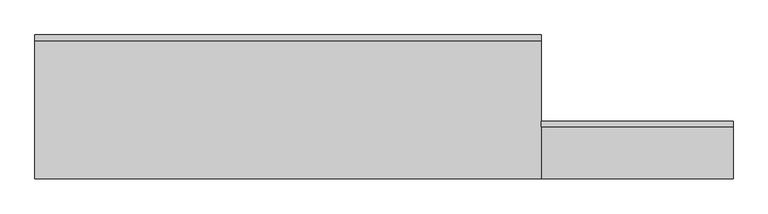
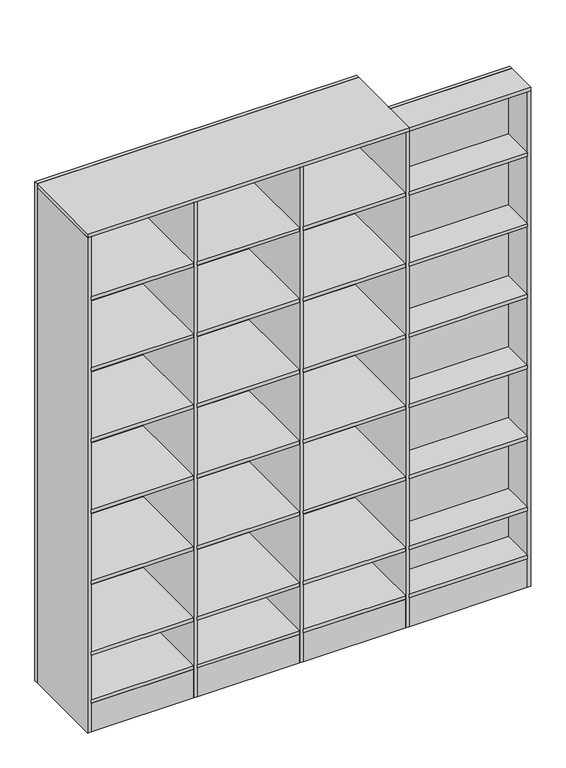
"""IFC4 building model written with IfcOpenShell, lengths in millimetres: furniture geometry, C20 Estanteria grande : C20.2 Estanteria grande 45."""

from ifc_helpers import new_model, si_unit, frame, origin, place, context, project, spatial, polyline, outline, extrude, source, transform, mapped, element, save


def furniture_8ed5fab2(model_context):
    return source(origin(), model_context, "Body", "SweptSolid", [
        extrude(outline(polyline([(537.2003264, 0.0), (537.2003264, -18.0), (-1047.7996736, -18.0), (-1047.7996736, 0.0), (537.2003264, 0.0)])), frame((0.0, 0.0, 20.0), z_axis=(0.0, 0.0, 1.0), x_axis=(1.0, 0.0, 0.0)), (0.0, 0.0, 1.0), 2600.0),
        extrude(outline(polyline([(1137.2003264, -270.0), (1137.2003264, -288.0), (537.2003264, -288.0), (537.2003264, -270.0), (1137.2003264, -270.0)])), frame((0.0, 0.0, 20.0), z_axis=(0.0, 0.0, 1.0), x_axis=(1.0, 0.0, 0.0)), (0.0, 0.0, 1.0), 2600.0),
        extrude(outline(polyline([(519.2003264, -450.0), (14.8669931, -450.0), (14.8669931, -18.0), (519.2003264, -18.0), (519.2003264, -450.0)])), frame((0.0, 0.0, 789.6), z_axis=(0.0, 0.0, 1.0), x_axis=(1.0, 0.0, 0.0)), (0.0, 0.0, 1.0), 18.0),
        extrude(outline(polyline([(519.2003264, -450.0), (14.8669931, -450.0), (14.8669931, -18.0), (519.2003264, -18.0), (519.2003264, -450.0)])), frame((0.0, 0.0, 1159.2), z_axis=(0.0, 0.0, 1.0), x_axis=(1.0, 0.0, 0.0)), (0.0, 0.0, 1.0), 18.0),
        extrude(outline(polyline([(519.2003264, -450.0), (14.8669931, -450.0), (14.8669931, -18.0), (519.2003264, -18.0), (519.2003264, -450.0)])), frame((0.0, 0.0, 1528.8), z_axis=(0.0, 0.0, 1.0), x_axis=(1.0, 0.0, 0.0)), (0.0, 0.0, 1.0), 18.0),
        extrude(outline(polyline([(-3.1330069, -450.0), (-507.4663402, -450.0), (-507.4663402, -18.0), (-3.1330069, -18.0), (-3.1330069, -450.0)])), frame((0.0, 0.0, 789.6), z_axis=(0.0, 0.0, 1.0), x_axis=(1.0, 0.0, 0.0)), (0.0, 0.0, 1.0), 18.0),
        extrude(outline(polyline([(-3.1330069, -450.0), (-507.4663402, -450.0), (-507.4663402, -18.0), (-3.1330069, -18.0), (-3.1330069, -450.0)])), frame((0.0, 0.0, 1159.2), z_axis=(0.0, 0.0, 1.0), x_axis=(1.0, 0.0, 0.0)), (0.0, 0.0, 1.0), 18.0),
        extrude(outline(polyline([(-3.1330069, -450.0), (-507.4663402, -450.0), (-507.4663402, -18.0), (-3.1330069, -18.0), (-3.1330069, -450.0)])), frame((0.0, 0.0, 1528.8), z_axis=(0.0, 0.0, 1.0), x_axis=(1.0, 0.0, 0.0)), (0.0, 0.0, 1.0), 18.0),
        extrude(outline(polyline([(-525.4663402, -450.0), (-1029.7996736, -450.0), (-1029.7996736, -18.0), (-525.4663402, -18.0), (-525.4663402, -450.0)])), frame((0.0, 0.0, 789.6), z_axis=(0.0, 0.0, 1.0), x_axis=(1.0, 0.0, 0.0)), (0.0, 0.0, 1.0), 18.0),
        extrude(outline(polyline([(-525.4663402, -450.0), (-1029.7996736, -450.0), (-1029.7996736, -18.0), (-525.4663402, -18.0), (-525.4663402, -450.0)])), frame((0.0, 0.0, 1159.2), z_axis=(0.0, 0.0, 1.0), x_axis=(1.0, 0.0, 0.0)), (0.0, 0.0, 1.0), 18.0),
        extrude(outline(polyline([(-525.4663402, -450.0), (-1029.7996736, -450.0), (-1029.7996736, -18.0), (-525.4663402, -18.0), (-525.4663402, -450.0)])), frame((0.0, 0.0, 1528.8), z_axis=(0.0, 0.0, 1.0), x_axis=(1.0, 0.0, 0.0)), (0.0, 0.0, 1.0), 18.0),
        extrude(outline(polyline([(519.2003264, -450.0), (14.8669931, -450.0), (14.8669931, -18.0), (519.2003264, -18.0), (519.2003264, -450.0)])), frame((0.0, 0.0, 1898.4), z_axis=(0.0, 0.0, 1.0), x_axis=(1.0, 0.0, 0.0)), (0.0, 0.0, 1.0), 18.0),
        extrude(outline(polyline([(519.2003264, -450.0), (14.8669931, -450.0), (14.8669931, -18.0), (519.2003264, -18.0), (519.2003264, -450.0)])), frame((0.0, 0.0, 2268.0), z_axis=(0.0, 0.0, 1.0), x_axis=(1.0, 0.0, 0.0)), (0.0, 0.0, 1.0), 18.0),
        extrude(outline(polyline([(-3.1330069, -450.0), (-507.4663402, -450.0), (-507.4663402, -18.0), (-3.1330069, -18.0), (-3.1330069, -450.0)])), frame((0.0, 0.0, 1898.4), z_axis=(0.0, 0.0, 1.0), x_axis=(1.0, 0.0, 0.0)), (0.0, 0.0, 1.0), 18.0),
        extrude(outline(polyline([(-3.1330069, -450.0), (-507.4663402, -450.0), (-507.4663402, -18.0), (-3.1330069, -18.0), (-3.1330069, -450.0)])), frame((0.0, 0.0, 2268.0), z_axis=(0.0, 0.0, 1.0), x_axis=(1.0, 0.0, 0.0)), (0.0, 0.0, 1.0), 18.0),
        extrude(outline(polyline([(-525.4663402, -450.0), (-1029.7996736, -450.0), (-1029.7996736, -18.0), (-525.4663402, -18.0), (-525.4663402, -450.0)])), frame((0.0, 0.0, 1898.4), z_axis=(0.0, 0.0, 1.0), x_axis=(1.0, 0.0, 0.0)), (0.0, 0.0, 1.0), 18.0),
        extrude(outline(polyline([(-525.4663402, -450.0), (-1029.7996736, -450.0), (-1029.7996736, -18.0), (-525.4663402, -18.0), (-525.4663402, -450.0)])), frame((0.0, 0.0, 2268.0), z_axis=(0.0, 0.0, 1.0), x_axis=(1.0, 0.0, 0.0)), (0.0, 0.0, 1.0), 18.0),
        extrude(outline(polyline([(537.2003264, -450.0), (-1047.7996736, -450.0), (-1047.7996736, -18.0), (537.2003264, -18.0), (537.2003264, -450.0)])), frame((0.0, 0.0, 2602.0), z_axis=(0.0, 0.0, 1.0), x_axis=(1.0, 0.0, 0.0)), (0.0, 0.0, 1.0), 18.0),
        extrude(outline(polyline([(519.2003264, -450.0), (14.8669931, -450.0), (14.8669931, -18.0), (519.2003264, -18.0), (519.2003264, -450.0)])), frame((0.0, 0.0, 420.0), z_axis=(0.0, 0.0, 1.0), x_axis=(1.0, 0.0, 0.0)), (0.0, 0.0, 1.0), 18.0),
        extrude(outline(polyline([(-3.1330069, -450.0), (-507.4663402, -450.0), (-507.4663402, -18.0), (-3.1330069, -18.0), (-3.1330069, -450.0)])), frame((0.0, 0.0, 420.0), z_axis=(0.0, 0.0, 1.0), x_axis=(1.0, 0.0, 0.0)), (0.0, 0.0, 1.0), 18.0),
        extrude(outline(polyline([(-525.4663402, -450.0), (-1029.7996736, -450.0), (-1029.7996736, -18.0), (-525.4663402, -18.0), (-525.4663402, -450.0)])), frame((0.0, 0.0, 420.0), z_axis=(0.0, 0.0, 1.0), x_axis=(1.0, 0.0, 0.0)), (0.0, 0.0, 1.0), 18.0),
        extrude(outline(polyline([(519.2003264, -450.0), (14.8669931, -450.0), (14.8669931, -18.0), (519.2003264, -18.0), (519.2003264, -450.0)])), frame((0.0, 0.0, 170.0), z_axis=(0.0, 0.0, 1.0), x_axis=(1.0, 0.0, 0.0)), (0.0, 0.0, 1.0), 18.0),
        extrude(outline(polyline([(-3.1330069, -450.0), (-507.4663402, -450.0), (-507.4663402, -18.0), (-3.1330069, -18.0), (-3.1330069, -450.0)])), frame((0.0, 0.0, 170.0), z_axis=(0.0, 0.0, 1.0), x_axis=(1.0, 0.0, 0.0)), (0.0, 0.0, 1.0), 18.0),
        extrude(outline(polyline([(-525.4663402, -450.0), (-1029.7996736, -450.0), (-1029.7996736, -18.0), (-525.4663402, -18.0), (-525.4663402, -450.0)])), frame((0.0, 0.0, 170.0), z_axis=(0.0, 0.0, 1.0), x_axis=(1.0, 0.0, 0.0)), (0.0, 0.0, 1.0), 18.0),
        extrude(outline(polyline([(1119.2003264, -450.0), (537.2003264, -450.0), (537.2003264, -288.0), (1119.2003264, -288.0), (1119.2003264, -450.0)])), frame((0.0, 0.0, 789.6), z_axis=(0.0, 0.0, 1.0), x_axis=(1.0, 0.0, 0.0)), (0.0, 0.0, 1.0), 18.0),
        extrude(outline(polyline([(1119.2003264, -450.0), (537.2003264, -450.0), (537.2003264, -288.0), (1119.2003264, -288.0), (1119.2003264, -450.0)])), frame((0.0, 0.0, 1159.2), z_axis=(0.0, 0.0, 1.0), x_axis=(1.0, 0.0, 0.0)), (0.0, 0.0, 1.0), 18.0),
        extrude(outline(polyline([(1119.2003264, -450.0), (537.2003264, -450.0), (537.2003264, -288.0), (1119.2003264, -288.0), (1119.2003264, -450.0)])), frame((0.0, 0.0, 1528.8), z_axis=(0.0, 0.0, 1.0), x_axis=(1.0, 0.0, 0.0)), (0.0, 0.0, 1.0), 18.0),
        extrude(outline(polyline([(1119.2003264, -450.0), (537.2003264, -450.0), (537.2003264, -288.0), (1119.2003264, -288.0), (1119.2003264, -450.0)])), frame((0.0, 0.0, 1898.4), z_axis=(0.0, 0.0, 1.0), x_axis=(1.0, 0.0, 0.0)), (0.0, 0.0, 1.0), 18.0),
        extrude(outline(polyline([(1119.2003264, -450.0), (537.2003264, -450.0), (537.2003264, -288.0), (1119.2003264, -288.0), (1119.2003264, -450.0)])), frame((0.0, 0.0, 2268.0), z_axis=(0.0, 0.0, 1.0), x_axis=(1.0, 0.0, 0.0)), (0.0, 0.0, 1.0), 18.0),
        extrude(outline(polyline([(1137.2003264, -450.0), (537.2003264, -450.0), (537.2003264, -288.0), (1137.2003264, -288.0), (1137.2003264, -450.0)])), frame((0.0, 0.0, 2602.0), z_axis=(0.0, 0.0, 1.0), x_axis=(1.0, 0.0, 0.0)), (0.0, 0.0, 1.0), 18.0),
        extrude(outline(polyline([(1119.2003264, -450.0), (537.2003264, -450.0), (537.2003264, -288.0), (1119.2003264, -288.0), (1119.2003264, -450.0)])), frame((0.0, 0.0, 420.0), z_axis=(0.0, 0.0, 1.0), x_axis=(1.0, 0.0, 0.0)), (0.0, 0.0, 1.0), 18.0),
        extrude(outline(polyline([(1119.2003264, -450.0), (537.2003264, -450.0), (537.2003264, -288.0), (1119.2003264, -288.0), (1119.2003264, -450.0)])), frame((0.0, 0.0, 170.0), z_axis=(0.0, 0.0, 1.0), x_axis=(1.0, 0.0, 0.0)), (0.0, 0.0, 1.0), 18.0),
        extrude(outline(polyline([(1137.2003264, -450.0), (1119.2003264, -450.0), (1119.2003264, -288.0), (1137.2003264, -288.0), (1137.2003264, -450.0)])), frame((0.0, 0.0, 20.0), z_axis=(0.0, 0.0, 1.0), x_axis=(1.0, 0.0, 0.0)), (0.0, 0.0, 1.0), 2582.0),
        extrude(outline(polyline([(-1047.7996736, -18.0), (-1029.7996736, -18.0), (-1029.7996736, -450.0), (-1047.7996736, -450.0), (-1047.7996736, -18.0)])), frame((0.0, 0.0, 20.0), z_axis=(0.0, 0.0, 1.0), x_axis=(1.0, 0.0, 0.0)), (0.0, 0.0, 1.0), 2582.0),
        extrude(outline(polyline([(-525.4663402, -18.0), (-507.4663402, -18.0), (-507.4663402, -450.0), (-525.4663402, -450.0), (-525.4663402, -18.0)])), frame((0.0, 0.0, 20.0), z_axis=(0.0, 0.0, 1.0), x_axis=(1.0, 0.0, 0.0)), (0.0, 0.0, 1.0), 2582.0),
        extrude(outline(polyline([(-3.1330069, -18.0), (14.8669931, -18.0), (14.8669931, -450.0), (-3.1330069, -450.0), (-3.1330069, -18.0)])), frame((0.0, 0.0, 20.0), z_axis=(0.0, 0.0, 1.0), x_axis=(1.0, 0.0, 0.0)), (0.0, 0.0, 1.0), 2582.0),
        extrude(outline(polyline([(519.2003264, -18.0), (537.2003264, -18.0), (537.2003264, -450.0), (519.2003264, -450.0), (519.2003264, -18.0)])), frame((0.0, 0.0, 20.0), z_axis=(0.0, 0.0, 1.0), x_axis=(1.0, 0.0, 0.0)), (0.0, 0.0, 1.0), 2582.0),
        extrude(outline(polyline([(-525.4663402, -450.0), (-1029.7996736, -450.0), (-1029.7996736, -438.0), (-525.4663402, -438.0), (-525.4663402, -450.0)])), frame((0.0, 0.0, 20.0), z_axis=(0.0, 0.0, 1.0), x_axis=(1.0, 0.0, 0.0)), (0.0, 0.0, 1.0), 150.0),
        extrude(outline(polyline([(-3.1330069, -450.0), (-507.4663402, -450.0), (-507.4663402, -438.0), (-3.1330069, -438.0), (-3.1330069, -450.0)])), frame((0.0, 0.0, 20.0), z_axis=(0.0, 0.0, 1.0), x_axis=(1.0, 0.0, 0.0)), (0.0, 0.0, 1.0), 150.0),
        extrude(outline(polyline([(519.2003264, -450.0), (14.8669931, -450.0), (14.8669931, -438.0), (519.2003264, -438.0), (519.2003264, -450.0)])), frame((0.0, 0.0, 20.0), z_axis=(0.0, 0.0, 1.0), x_axis=(1.0, 0.0, 0.0)), (0.0, 0.0, 1.0), 150.0),
        extrude(outline(polyline([(1119.2003264, -450.0), (537.2003264, -450.0), (537.2003264, -438.0), (1119.2003264, -438.0), (1119.2003264, -450.0)])), frame((0.0, 0.0, 20.0), z_axis=(0.0, 0.0, 1.0), x_axis=(1.0, 0.0, 0.0)), (0.0, 0.0, 1.0), 150.0),
    ])


if __name__ == "__main__":
    model = new_model("IFC4")
    model_context = context("Model", 3, world=origin())
    ifc_project = project(units=[si_unit("LENGTHUNIT", "METRE", prefix="MILLI")], contexts=[model_context])
    site = spatial("IfcSite", under=ifc_project)
    building = spatial("IfcBuilding", under=site)
    placement = place(None, origin())
    furniture_shape = furniture_8ed5fab2(model_context)
    element("IfcFurniture", 1, ObjectType="C20 Estanteria grande : C20.2 Estanteria grande 45", at=placement, inside=building, context=model_context, shape_type="MappedRepresentation", body=[
        mapped(furniture_shape, transform((0.0, 0.0, 0.0), x_axis=(1.0, 0.0, 0.0), y_axis=(0.0, 1.0, 0.0), z_axis=(0.0, 0.0, 1.0))),
    ])
    save(model, "model.ifc")
